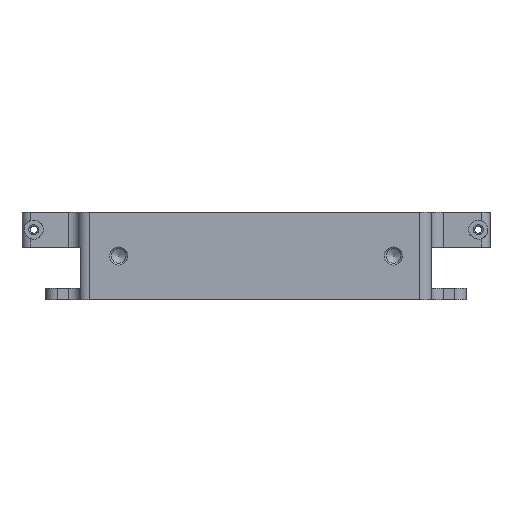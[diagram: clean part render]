
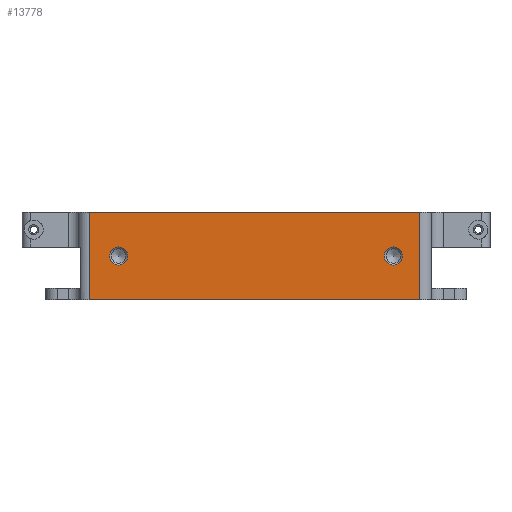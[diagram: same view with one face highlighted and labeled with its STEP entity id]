
A CAD part, left-side view. The second image highlights one B-rep face of the part: STEP entity #13778.
In plain terms, the highlighted planar face has unit normal (-1, 0, 0).
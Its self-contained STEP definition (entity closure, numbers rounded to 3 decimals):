
#270=CIRCLE('',#14338,3.1);
#271=CIRCLE('',#14339,3.1);
#566=FACE_BOUND('',#2213,.T.);
#567=FACE_BOUND('',#2214,.T.);
#1392=FACE_OUTER_BOUND('',#2212,.T.);
#2212=EDGE_LOOP('',(#11589,#11590,#11591,#11592));
#2213=EDGE_LOOP('',(#11593));
#2214=EDGE_LOOP('',(#11594));
#2925=LINE('',#22826,#4091);
#3329=LINE('',#27939,#4495);
#3330=LINE('',#27943,#4496);
#3331=LINE('',#27944,#4497);
#4091=VECTOR('',#15431,10.);
#4495=VECTOR('',#16139,10.);
#4496=VECTOR('',#16144,10.);
#4497=VECTOR('',#16145,10.);
#5908=VERTEX_POINT('',#22744);
#5948=VERTEX_POINT('',#22824);
#6449=VERTEX_POINT('',#27938);
#6450=VERTEX_POINT('',#27942);
#6451=VERTEX_POINT('',#27945);
#6452=VERTEX_POINT('',#27947);
#7535=EDGE_CURVE('',#5948,#5908,#2925,.T.);
#8249=EDGE_CURVE('',#5908,#6449,#3329,.T.);
#8251=EDGE_CURVE('',#6450,#5948,#3330,.T.);
#8252=EDGE_CURVE('',#6450,#6449,#3331,.T.);
#8253=EDGE_CURVE('',#6451,#6451,#270,.T.);
#8254=EDGE_CURVE('',#6452,#6452,#271,.T.);
#11589=ORIENTED_EDGE('',*,*,#8249,.F.);
#11590=ORIENTED_EDGE('',*,*,#7535,.F.);
#11591=ORIENTED_EDGE('',*,*,#8251,.F.);
#11592=ORIENTED_EDGE('',*,*,#8252,.T.);
#11593=ORIENTED_EDGE('',*,*,#8253,.T.);
#11594=ORIENTED_EDGE('',*,*,#8254,.T.);
#13168=PLANE('',#14337);
#13778=ADVANCED_FACE('',(#1392,#566,#567),#13168,.T.);
#14337=AXIS2_PLACEMENT_3D('',#27941,#16142,#16143);
#14338=AXIS2_PLACEMENT_3D('',#27946,#16146,#16147);
#14339=AXIS2_PLACEMENT_3D('',#27948,#16148,#16149);
#15431=DIRECTION('',(0.,-1.,0.));
#16139=DIRECTION('',(0.,0.,-1.));
#16142=DIRECTION('center_axis',(-1.,0.,0.));
#16143=DIRECTION('ref_axis',(0.,-1.,0.));
#16144=DIRECTION('',(0.,0.,1.));
#16145=DIRECTION('',(0.,-1.,0.));
#16146=DIRECTION('center_axis',(1.,0.,0.));
#16147=DIRECTION('ref_axis',(0.,0.,-1.));
#16148=DIRECTION('center_axis',(1.,0.,0.));
#16149=DIRECTION('ref_axis',(0.,0.,-1.));
#22744=CARTESIAN_POINT('',(-75.,-56.,30.));
#22824=CARTESIAN_POINT('',(-75.,57.072,30.));
#22826=CARTESIAN_POINT('',(-75.,60.,30.));
#27938=CARTESIAN_POINT('',(-75.,-56.,0.));
#27939=CARTESIAN_POINT('',(-75.,-56.,0.));
#27941=CARTESIAN_POINT('Origin',(-75.,60.,0.));
#27942=CARTESIAN_POINT('',(-75.,57.072,0.));
#27943=CARTESIAN_POINT('',(-75.,57.072,30.));
#27944=CARTESIAN_POINT('',(-75.,60.,0.));
#27945=CARTESIAN_POINT('',(-75.,47.,18.1));
#27946=CARTESIAN_POINT('Origin',(-75.,47.,15.));
#27947=CARTESIAN_POINT('',(-75.,-47.,18.1));
#27948=CARTESIAN_POINT('Origin',(-75.,-47.,15.));
